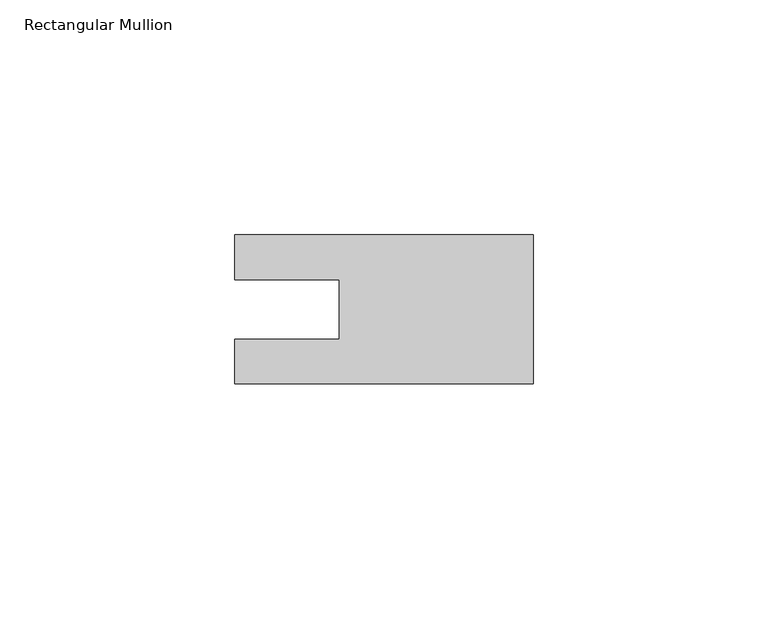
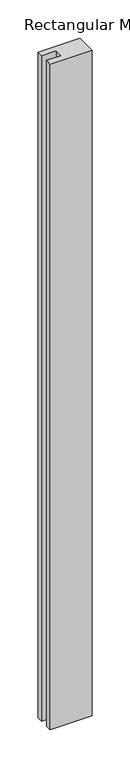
"""IFC4 building model written with IfcOpenShell, lengths in millimetres: member geometry, Rectangular Mullion : Melius SG Top Rail."""

import ifcopenshell
import ifcopenshell.guid

model = None  # the IFC model being written
_history = None  # IfcOwnerHistory: only IFC2X3 demands one
_inside = {}  # id of a spatial element -> (the spatial element, [elements in it])
_under = {}  # id of a project, library or spatial element -> (it, [spatial elements below it])
_declared = {}  # id of a project -> (the project, [libraries it declares])
_typed = {}  # id of a type object -> (the type object, [elements of that type])
_made_of = {}  # id of a material, layer set ... -> (it, [elements and type objects made of it])


def new_model(schema):
    """Start an empty IFC model of exactly this schema.

    Asked for "IFC4X3", IfcOpenShell would pick the latest addendum, in which some entities
    have other attributes; the version numbers below select the first issue.
    IFC2X3 requires an IfcOwnerHistory on every rooted entity: one is made here for all.
    """
    global model, _history
    if schema == "IFC4X3":
        model = ifcopenshell.file(schema_version=(4, 3, 0, 0))
    else:
        model = ifcopenshell.file(schema=schema)
    _inside.clear()
    _under.clear()
    _declared.clear()
    _typed.clear()
    _made_of.clear()
    _history = None
    if model.schema == "IFC2X3":
        org = make("IfcOrganization", Name="unknown")
        user = make(
            "IfcPersonAndOrganization",
            ThePerson=make("IfcPerson", FamilyName="unknown"),
            TheOrganization=org,
        )
        app = make(
            "IfcApplication",
            ApplicationDeveloper=org,
            Version="unknown",
            ApplicationFullName="unknown",
            ApplicationIdentifier="unknown",
        )
        _history = make(
            "IfcOwnerHistory",
            OwningUser=user,
            OwningApplication=app,
            ChangeAction="ADDED",
            CreationDate=0,
        )
    return model


def make(cls, **values):
    """One entity of the class cls with the attributes given. An attribute that is None is left unset."""
    return model.create_entity(
        cls, **{name: value for name, value in values.items() if value is not None}
    )


def rooted(cls, **values):
    """An entity with a GlobalId (a new one), such as an element, a storey or a relation."""
    return make(cls, GlobalId=ifcopenshell.guid.new(), OwnerHistory=_history, **values)


def si_unit(unit_type, name, prefix=None):
    """IfcSIUnit, for example si_unit("LENGTHUNIT", "METRE", prefix="MILLI")."""
    return make("IfcSIUnit", UnitType=unit_type, Prefix=prefix, Name=name)


def assignment(units):
    """IfcUnitAssignment: the units of a project."""
    return None if units is None else make("IfcUnitAssignment", Units=units)


def point(xyz):
    """IfcCartesianPoint."""
    return None if xyz is None else make("IfcCartesianPoint", Coordinates=xyz)


def direction(xyz):
    """IfcDirection."""
    return None if xyz is None else make("IfcDirection", DirectionRatios=xyz)


def frame(location, z_axis=None, x_axis=None):
    """IfcAxis2Placement3D, a coordinate frame: its origin and axes. An axis left out is left unset."""
    return make(
        "IfcAxis2Placement3D",
        Location=point(location),
        Axis=direction(z_axis),
        RefDirection=direction(x_axis),
    )


def origin():
    """The frame at (0, 0, 0) with its axes left unset."""
    return frame((0.0, 0.0, 0.0))


def place(relative_to, where):
    """IfcLocalPlacement: puts the frame where relative to a parent placement (None: the world)."""
    return make(
        "IfcLocalPlacement", PlacementRelTo=relative_to, RelativePlacement=where
    )


def context(
    kind, dimensions, precision=None, world=None, true_north=None, identifier=None
):
    """IfcGeometricRepresentationContext, for example the 3D "Model" context."""
    return make(
        "IfcGeometricRepresentationContext",
        ContextIdentifier=identifier,
        ContextType=kind,
        CoordinateSpaceDimension=dimensions,
        Precision=precision,
        WorldCoordinateSystem=world,
        TrueNorth=true_north,
    )


def project(units=None, contexts=None):
    """IfcProject with its units and contexts."""
    return rooted(
        "IfcProject",
        Name="project",
        RepresentationContexts=contexts,
        UnitsInContext=assignment(units),
    )


def spatial(cls, under=None, at=None, **own):
    """A site, building, storey or space (cls), placed at a placement, below another one or the project."""
    s = rooted(cls, ObjectPlacement=at, **own)
    if under is not None:
        _under.setdefault(under.id(), (under, []))[1].append(s)
    return s


def polyline(points):
    """IfcPolyline through the points."""
    return make("IfcPolyline", Points=[point(p) for p in points])


def outline(outer, holes=None, kind="AREA"):
    """IfcArbitraryClosedProfileDef: a profile drawn as a closed curve; with holes, ...WithVoids."""
    if holes is None:
        return make("IfcArbitraryClosedProfileDef", ProfileType=kind, OuterCurve=outer)
    return make(
        "IfcArbitraryProfileDefWithVoids",
        ProfileType=kind,
        OuterCurve=outer,
        InnerCurves=holes,
    )


def extrude(swept, where, along, depth):
    """IfcExtrudedAreaSolid: the profile swept, set in the frame where, extruded along a direction by depth."""
    return make(
        "IfcExtrudedAreaSolid",
        SweptArea=swept,
        Position=where,
        ExtrudedDirection=direction(along),
        Depth=depth,
    )


def shape(context_of_items, identifier, shape_type, items):
    """IfcShapeRepresentation: the items that make up one representation, for example the "Body"."""
    return make(
        "IfcShapeRepresentation",
        ContextOfItems=context_of_items,
        RepresentationIdentifier=identifier,
        RepresentationType=shape_type,
        Items=items,
    )


def source(mapping_origin, context_of_items, identifier, shape_type, items):
    """IfcRepresentationMap: a shape defined once, which mapped items show again and again."""
    return make(
        "IfcRepresentationMap",
        MappingOrigin=mapping_origin,
        MappedRepresentation=shape(context_of_items, identifier, shape_type, items),
    )


def transform(
    local_origin,
    x_axis=None,
    y_axis=None,
    z_axis=None,
    scale=None,
    scale2=None,
    scale3=None,
    uniform=True,
):
    """IfcCartesianTransformationOperator3D, or its non-uniform kind. x_axis, y_axis, z_axis: its Axis1, 2, 3."""
    if uniform:
        return make(
            "IfcCartesianTransformationOperator3D",
            Axis1=direction(x_axis),
            Axis2=direction(y_axis),
            LocalOrigin=point(local_origin),
            Scale=scale,
            Axis3=direction(z_axis),
        )
    return make(
        "IfcCartesianTransformationOperator3DnonUniform",
        Axis1=direction(x_axis),
        Axis2=direction(y_axis),
        LocalOrigin=point(local_origin),
        Scale=scale,
        Axis3=direction(z_axis),
        Scale2=scale2,
        Scale3=scale3,
    )


def mapped(mapping_source, mapping_target):
    """IfcMappedItem: shows the shape of a source again, moved by a transform."""
    return make(
        "IfcMappedItem", MappingSource=mapping_source, MappingTarget=mapping_target
    )


def made_of(thing, what):
    """Note that an element or type object is made of a material, layer set ...; save() writes the relation."""
    if what is not None:
        _made_of.setdefault(what.id(), (what, []))[1].append(thing)
    return thing


def element(
    cls,
    number,
    at=None,
    inside=None,
    cuts=None,
    type_object=None,
    material=None,
    context=None,
    identifier="Body",
    shape_type=None,
    held_by="IfcProductDefinitionShape",
    body=None,
    shapes=None,
    **own,
):
    """One element of the class cls, such as IfcWall. Its Tag is "e" and its number.

    at: its placement. inside: the storey or other place that contains it. cuts: it is an
    opening in that element (IfcRelVoidsElement). A single representation is given by context,
    identifier, shape_type and body (its items); several are given by shapes. held_by: the class
    of the entity that holds the representations. save() writes the other relations.
    """
    e = rooted(cls, Tag="e%d" % number, ObjectPlacement=at, **own)
    if body is not None:
        shapes = [shape(context, identifier, shape_type, body)]
    if shapes is not None:
        e.Representation = make(held_by, Representations=shapes)
    if inside is not None:
        _inside.setdefault(inside.id(), (inside, []))[1].append(e)
    if cuts is not None:
        rooted(
            "IfcRelVoidsElement", RelatingBuildingElement=cuts, RelatedOpeningElement=e
        )
    if type_object is not None:
        _typed.setdefault(type_object.id(), (type_object, []))[1].append(e)
    return made_of(e, material)


def aggregate(whole, parts):
    """IfcRelAggregates: a whole, such as a stair, and the parts it consists of."""
    return rooted("IfcRelAggregates", RelatingObject=whole, RelatedObjects=parts)


def save(model, path):
    """Write the relations noted so far, then the file.

    IfcRelAggregates (storeys below a building ...), IfcRelContainedInSpatialStructure (elements
    in a storey), IfcRelDefinesByType, IfcRelAssociatesMaterial and IfcRelDeclares: one each for
    every whole, place, type object, material and project.
    """
    for whole, parts in _under.values():
        aggregate(whole, parts)
    for where, things in _inside.values():
        rooted(
            "IfcRelContainedInSpatialStructure",
            RelatedElements=things,
            RelatingStructure=where,
        )
    for kind, things in _typed.values():
        rooted("IfcRelDefinesByType", RelatedObjects=things, RelatingType=kind)
    for what, things in _made_of.values():
        rooted("IfcRelAssociatesMaterial", RelatedObjects=things, RelatingMaterial=what)
    for by, libraries in _declared.values():
        rooted("IfcRelDeclares", RelatingContext=by, RelatedDefinitions=libraries)
    model.write(path)


def rectangular_mullion_5b5de1b9(model_context):
    return source(origin(), model_context, "Body", "SweptSolid", [
        extrude(outline(polyline([(-63.5, -15.875), (-63.5, -6.35), (-41.275, -6.35), (-41.275, 6.35), (-63.5, 6.35), (-63.5, 15.875), (0.0, 15.875), (0.0, -15.875), (-63.5, -15.875)])), frame((0.0, 0.0, -1065.7562254), z_axis=(0.0, 0.0, 1.0), x_axis=(1.0, 0.0, 0.0)), (0.0, 0.0, 1.0), 1065.7562254),
    ])


if __name__ == "__main__":
    model = new_model("IFC4")
    model_context = context("Model", 3, world=origin())
    ifc_project = project(units=[si_unit("LENGTHUNIT", "METRE", prefix="MILLI")], contexts=[model_context])
    site = spatial("IfcSite", under=ifc_project)
    building = spatial("IfcBuilding", under=site)
    placement = place(None, origin())
    rectangular_mullion_shape = rectangular_mullion_5b5de1b9(model_context)
    element("IfcMember", 1, ObjectType="Rectangular Mullion : Melius SG Top Rail", at=placement, inside=building, context=model_context, shape_type="MappedRepresentation", body=[
        mapped(rectangular_mullion_shape, transform((0.0, 0.0, 0.0), x_axis=(1.0, 0.0, 0.0), y_axis=(0.0, 1.0, 0.0), z_axis=(0.0, 0.0, 1.0))),
    ])
    save(model, "model.ifc")
